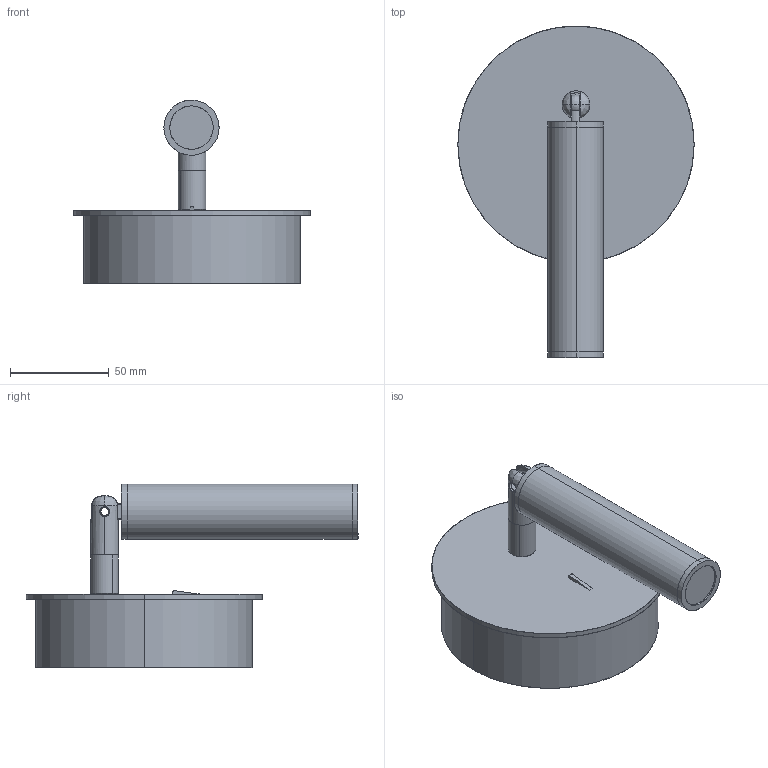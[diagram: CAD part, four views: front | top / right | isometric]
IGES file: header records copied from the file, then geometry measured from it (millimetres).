
Start section: SolidWorks IGES file using analytic representation for surfaces
Global section: file name: C:\Users\adrian\Desktop\MODELADOS USA\COCO\AU1342_COCO.IGS; native system: SolidWorks 2023; preprocessor: SolidWorks 2023; author: adrian; date: 260605.092629; units: inch
Bounding box: 119.89 x 168.44 x 93.33 mm (x, y, z)
Surface area: 72974.8 mm2 (no closed solid volume)
Topology: 0 solids, 0 shells, 86 faces, 2146 edges, 2144 vertices
Faces by surface type: revolution 49, bspline 37
